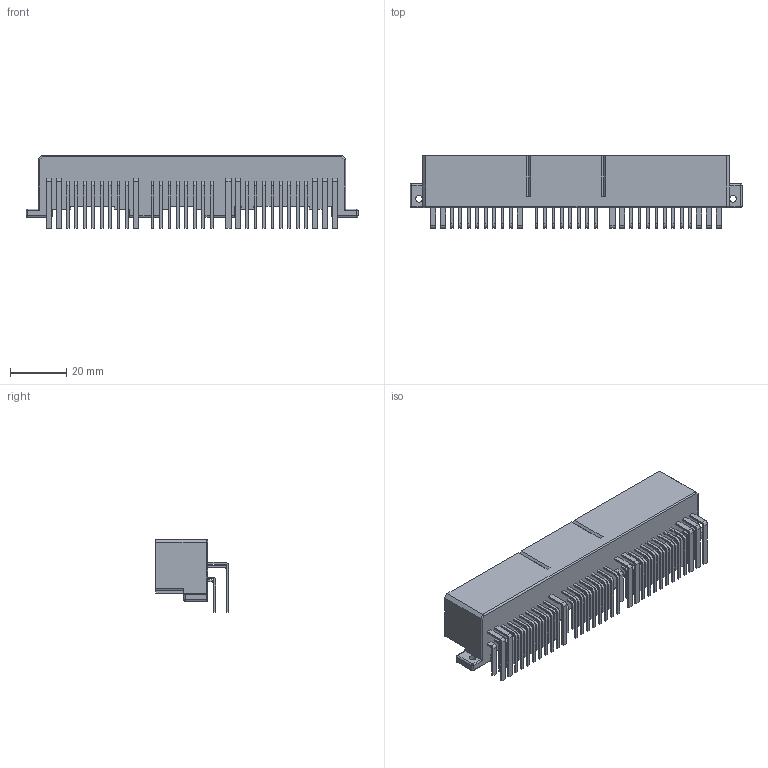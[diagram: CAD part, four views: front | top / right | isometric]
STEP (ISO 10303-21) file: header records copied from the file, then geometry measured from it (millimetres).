
FILE_DESCRIPTION(('FreeCAD Model'),'2;1');
FILE_NAME('C:\Program Files\KiCad\share\kicad\modules\packages3d\C-0176122-06-3.step', '2018-03-05T05:20:10',('kicad StepUp'),('ksu MCAD'), 'Open CASCADE STEP processor 6.8','FreeCAD','Unknown');
FILE_SCHEMA(('AUTOMOTIVE_DESIGN_CC2 { 1 2 10303 214 -1 1 5 4 }'));
Length unit declared in the file: millimetre
Products named in the file (2): ASSEMBLY; C-0176122-06-3
Assembly tree (1 placements, depth 2):
  ASSEMBLY
    C-0176122-06-3
Bounding box: 117.8 x 25.82 x 25.9 mm (x, y, z)
Volume: 19212.3 mm3; surface area: 21048.7 mm2
Topology: 1 solids, 1 shells, 1390 faces, 3570 edges, 2313 vertices
Faces by surface type: plane 1189, cylinder 181, sphere 20
Entity records: 41435 total; most frequent: CARTESIAN_POINT 7315, ORIENTED_EDGE 7140, DIRECTION 6698, EDGE_CURVE 3570, LINE 3214, VECTOR 3214, VERTEX_POINT 2313, AXIS2_PLACEMENT_3D 1742
